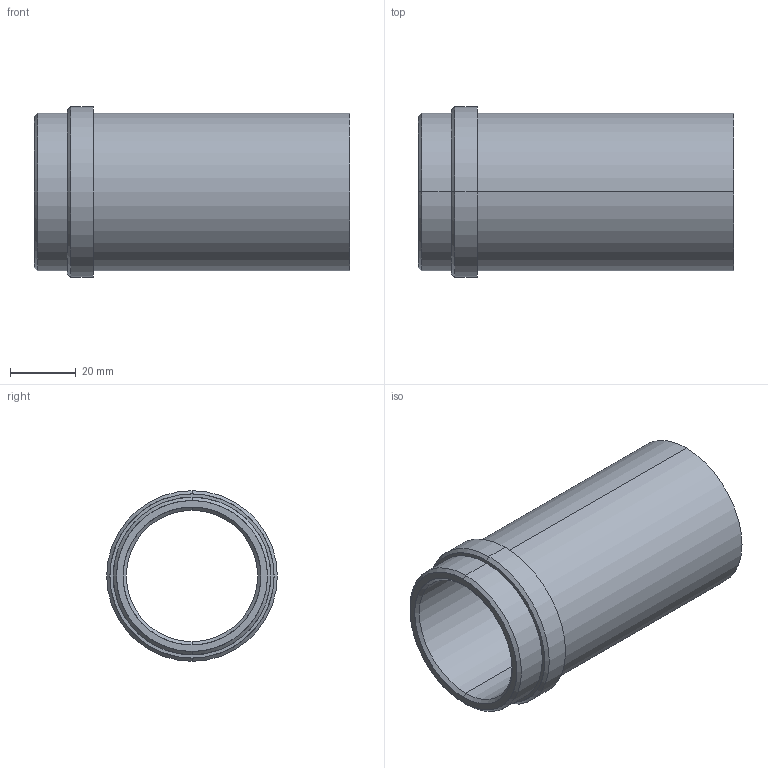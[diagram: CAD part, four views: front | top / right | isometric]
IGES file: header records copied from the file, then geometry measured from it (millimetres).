
Start section: START RECORD GO HERE.
Global section: file name: 358-40x96.igs; native system: DASSAULT SYSTEMES CATIA V5 R20 - www.3ds.com; preprocessor: CATIA Version 5 Release 20 ; author: Utente; organization: NB04-ASUS; date: 20210409.165346; units: millimetre
Bounding box: 96 x 52 x 52 mm (x, y, z)
Surface area: 28009.8 mm2 (no closed solid volume)
Topology: 0 solids, 0 shells, 20 faces, 128 edges, 128 vertices
Faces by surface type: revolution 16, plane 4
